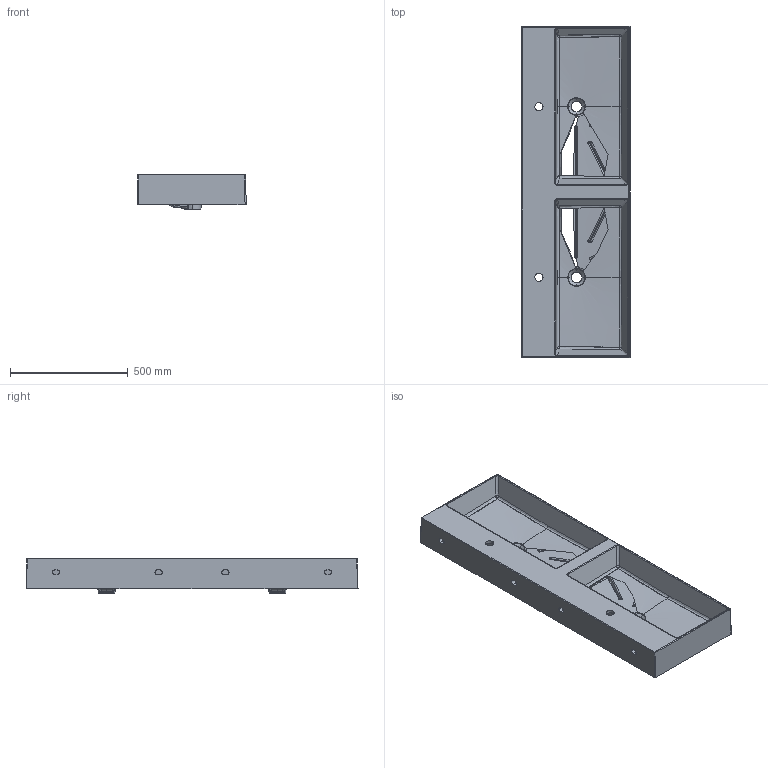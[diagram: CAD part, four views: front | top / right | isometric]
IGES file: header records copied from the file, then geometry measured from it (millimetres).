
Start section: START RECORD GO HERE.
Global section: file name: 8939_MEG Pro 141 x 46 DV.igs; native system: DASSAULT SYSTEMES CATIA V5 R19 - www.3ds.com; preprocessor: CATIA Version 5 Release 19 SP 5 ; author: gioge; organization: LAPTOP-G94B6G74; date: 20200630.151417; units: millimetre
Bounding box: 460.87 x 1410.28 x 151.5 mm (x, y, z)
Surface area: 2526869.9 mm2 (no closed solid volume)
Topology: 0 solids, 0 shells, 945 faces, 4420 edges, 4324 vertices
Faces by surface type: bspline 852, plane 89, revolution 4
